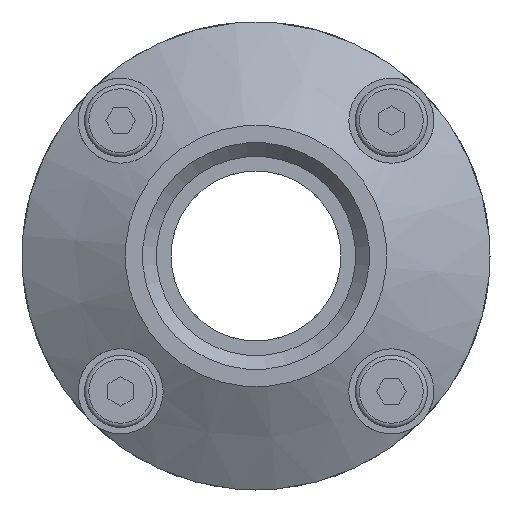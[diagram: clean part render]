
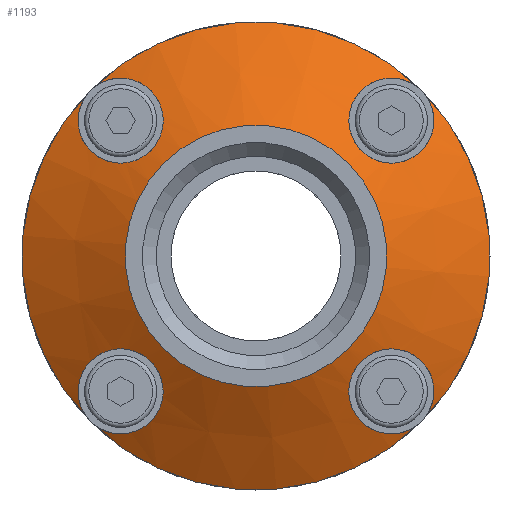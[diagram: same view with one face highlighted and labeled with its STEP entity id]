
A CAD part, front view. The second image highlights one B-rep face of the part: STEP entity #1193.
In plain terms, the highlighted conical face has half-angle 60 degrees and reference radius 27.5 mm.
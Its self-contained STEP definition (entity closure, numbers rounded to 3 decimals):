
#35=B_SPLINE_CURVE_WITH_KNOTS('',3,(#6051,#6052,#6053,#6054,#6055,#6056,
#6057,#6058,#6059,#6060,#6061,#6062,#6063,#6064,#6065,#6066,#6067,#6068),
 .UNSPECIFIED.,.T.,.F.,(2,2,2,2,2,2,2,2,2,2,2),(-0.125,0.,0.125,0.25,0.375,
0.5,0.625,0.75,0.875,1.,1.125),.UNSPECIFIED.);
#36=B_SPLINE_CURVE_WITH_KNOTS('',3,(#6069,#6070,#6071,#6072,#6073,#6074,
#6075,#6076,#6077,#6078,#6079,#6080,#6081,#6082,#6083,#6084,#6085,#6086),
 .UNSPECIFIED.,.T.,.F.,(2,2,2,2,2,2,2,2,2,2,2),(-0.125,0.,0.125,0.25,0.375,
0.5,0.625,0.75,0.875,1.,1.125),.UNSPECIFIED.);
#37=B_SPLINE_CURVE_WITH_KNOTS('',3,(#6087,#6088,#6089,#6090,#6091,#6092,
#6093,#6094,#6095,#6096,#6097,#6098,#6099,#6100,#6101,#6102,#6103,#6104),
 .UNSPECIFIED.,.T.,.F.,(2,2,2,2,2,2,2,2,2,2,2),(-0.125,0.,0.125,0.25,0.375,
0.5,0.625,0.75,0.875,1.,1.125),.UNSPECIFIED.);
#38=B_SPLINE_CURVE_WITH_KNOTS('',3,(#6105,#6106,#6107,#6108,#6109,#6110,
#6111,#6112,#6113,#6114,#6115,#6116,#6117,#6118,#6119,#6120,#6121,#6122),
 .UNSPECIFIED.,.T.,.F.,(2,2,2,2,2,2,2,2,2,2,2),(-0.125,0.,0.125,0.25,0.375,
0.5,0.625,0.75,0.875,1.,1.125),.UNSPECIFIED.);
#50=CONICAL_SURFACE('',#4158,27.5,60.);
#789=FACE_BOUND('',#1783,.T.);
#790=FACE_BOUND('',#1784,.T.);
#1193=ADVANCED_FACE('',(#789,#790),#50,.T.);
#1783=EDGE_LOOP('',(#2360));
#1784=EDGE_LOOP('',(#2361,#2362,#2363,#2364,#2365,#2366,#2367,#2368));
#2360=ORIENTED_EDGE('',*,*,#3388,.F.);
#2361=ORIENTED_EDGE('',*,*,#3386,.F.);
#2362=ORIENTED_EDGE('',*,*,#3410,.F.);
#2363=ORIENTED_EDGE('',*,*,#3385,.F.);
#2364=ORIENTED_EDGE('',*,*,#3411,.F.);
#2365=ORIENTED_EDGE('',*,*,#3384,.F.);
#2366=ORIENTED_EDGE('',*,*,#3412,.F.);
#2367=ORIENTED_EDGE('',*,*,#3383,.F.);
#2368=ORIENTED_EDGE('',*,*,#3413,.F.);
#3035=VERTEX_POINT('',#5979);
#3036=VERTEX_POINT('',#5980);
#3037=VERTEX_POINT('',#5982);
#3038=VERTEX_POINT('',#5984);
#3040=VERTEX_POINT('',#5990);
#3383=EDGE_CURVE('',#3035,#3036,#3832,.T.);
#3384=EDGE_CURVE('',#3036,#3037,#3833,.T.);
#3385=EDGE_CURVE('',#3037,#3038,#3834,.T.);
#3386=EDGE_CURVE('',#3038,#3035,#3835,.T.);
#3388=EDGE_CURVE('',#3040,#3040,#3837,.T.);
#3410=EDGE_CURVE('',#3038,#3038,#35,.T.);
#3411=EDGE_CURVE('',#3037,#3037,#36,.T.);
#3412=EDGE_CURVE('',#3036,#3036,#37,.T.);
#3413=EDGE_CURVE('',#3035,#3035,#38,.T.);
#3832=CIRCLE('',#4112,27.5);
#3833=CIRCLE('',#4113,27.5);
#3834=CIRCLE('',#4114,27.5);
#3835=CIRCLE('',#4115,27.5);
#3837=CIRCLE('',#4118,15.376);
#4112=AXIS2_PLACEMENT_3D('',#5978,#4767,#4768);
#4113=AXIS2_PLACEMENT_3D('',#5981,#4769,#4770);
#4114=AXIS2_PLACEMENT_3D('',#5983,#4771,#4772);
#4115=AXIS2_PLACEMENT_3D('',#5985,#4773,#4774);
#4118=AXIS2_PLACEMENT_3D('',#5989,#4779,#4780);
#4158=AXIS2_PLACEMENT_3D('',#6123,#4859,#4860);
#4767=DIRECTION('',(0.,1.,0.));
#4768=DIRECTION('',(0.707,0.,-0.707));
#4769=DIRECTION('',(0.,1.,0.));
#4770=DIRECTION('',(0.707,0.,-0.707));
#4771=DIRECTION('',(0.,1.,0.));
#4772=DIRECTION('',(0.707,0.,-0.707));
#4773=DIRECTION('',(0.,1.,0.));
#4774=DIRECTION('',(0.707,0.,-0.707));
#4779=DIRECTION('',(0.,-1.,0.));
#4780=DIRECTION('',(0.707,0.,-0.707));
#4859=DIRECTION('',(0.,1.,0.));
#4860=DIRECTION('',(-0.707,0.,0.707));
#5978=CARTESIAN_POINT('',(0.,-40.5,0.));
#5979=CARTESIAN_POINT('',(-19.445,-40.5,19.445));
#5980=CARTESIAN_POINT('',(19.445,-40.5,19.445));
#5981=CARTESIAN_POINT('',(0.,-40.5,0.));
#5982=CARTESIAN_POINT('',(19.445,-40.5,-19.445));
#5983=CARTESIAN_POINT('',(0.,-40.5,0.));
#5984=CARTESIAN_POINT('',(-19.445,-40.5,-19.445));
#5985=CARTESIAN_POINT('',(0.,-40.5,0.));
#5989=CARTESIAN_POINT('',(0.,-47.5,0.));
#5990=CARTESIAN_POINT('',(10.872,-47.5,-10.872));
#6051=CARTESIAN_POINT('',(-20.453,-40.5,-18.438));
#6052=CARTESIAN_POINT('',(-18.438,-40.5,-20.453));
#6053=CARTESIAN_POINT('',(-17.019,-40.798,-20.965));
#6054=CARTESIAN_POINT('',(-14.347,-41.78,-20.844));
#6055=CARTESIAN_POINT('',(-13.152,-42.433,-20.258));
#6056=CARTESIAN_POINT('',(-11.448,-43.827,-18.481));
#6057=CARTESIAN_POINT('',(-10.944,-44.558,-17.314));
#6058=CARTESIAN_POINT('',(-10.879,-45.798,-14.76));
#6059=CARTESIAN_POINT('',(-11.378,-46.273,-13.371));
#6060=CARTESIAN_POINT('',(-13.368,-46.274,-11.38));
#6061=CARTESIAN_POINT('',(-14.775,-45.791,-10.878));
#6062=CARTESIAN_POINT('',(-17.312,-44.558,-10.946));
#6063=CARTESIAN_POINT('',(-18.499,-43.814,-11.46));
#6064=CARTESIAN_POINT('',(-20.264,-42.427,-13.163));
#6065=CARTESIAN_POINT('',(-20.848,-41.768,-14.377));
#6066=CARTESIAN_POINT('',(-20.962,-40.802,-17.011));
#6067=CARTESIAN_POINT('',(-20.453,-40.5,-18.438));
#6068=CARTESIAN_POINT('',(-18.438,-40.5,-20.453));
#6069=CARTESIAN_POINT('',(18.451,-40.5,-20.439));
#6070=CARTESIAN_POINT('',(20.439,-40.5,-18.451));
#6071=CARTESIAN_POINT('',(20.963,-40.801,-17.014));
#6072=CARTESIAN_POINT('',(20.847,-41.771,-14.37));
#6073=CARTESIAN_POINT('',(20.257,-42.433,-13.153));
#6074=CARTESIAN_POINT('',(18.492,-43.818,-11.457));
#6075=CARTESIAN_POINT('',(17.301,-44.564,-10.945));
#6076=CARTESIAN_POINT('',(14.785,-45.787,-10.878));
#6077=CARTESIAN_POINT('',(13.39,-46.272,-11.362));
#6078=CARTESIAN_POINT('',(11.37,-46.275,-13.375));
#6079=CARTESIAN_POINT('',(10.878,-45.799,-14.759));
#6080=CARTESIAN_POINT('',(10.945,-44.554,-17.322));
#6081=CARTESIAN_POINT('',(11.458,-43.816,-18.498));
#6082=CARTESIAN_POINT('',(13.169,-42.422,-20.269));
#6083=CARTESIAN_POINT('',(14.369,-41.77,-20.85));
#6084=CARTESIAN_POINT('',(17.032,-40.795,-20.961));
#6085=CARTESIAN_POINT('',(18.451,-40.5,-20.439));
#6086=CARTESIAN_POINT('',(20.439,-40.5,-18.451));
#6087=CARTESIAN_POINT('',(20.44,-40.5,18.451));
#6088=CARTESIAN_POINT('',(18.451,-40.5,20.44));
#6089=CARTESIAN_POINT('',(17.015,-40.8,20.964));
#6090=CARTESIAN_POINT('',(14.361,-41.774,20.846));
#6091=CARTESIAN_POINT('',(13.147,-42.437,20.253));
#6092=CARTESIAN_POINT('',(11.453,-43.823,18.486));
#6093=CARTESIAN_POINT('',(10.942,-44.57,17.29));
#6094=CARTESIAN_POINT('',(10.881,-45.792,14.772));
#6095=CARTESIAN_POINT('',(11.37,-46.275,13.376));
#6096=CARTESIAN_POINT('',(13.389,-46.272,11.363));
#6097=CARTESIAN_POINT('',(14.796,-45.783,10.873));
#6098=CARTESIAN_POINT('',(17.33,-44.548,10.951));
#6099=CARTESIAN_POINT('',(18.509,-43.807,11.466));
#6100=CARTESIAN_POINT('',(20.27,-42.42,13.173));
#6101=CARTESIAN_POINT('',(20.851,-41.767,14.375));
#6102=CARTESIAN_POINT('',(20.961,-40.796,17.03));
#6103=CARTESIAN_POINT('',(20.44,-40.5,18.451));
#6104=CARTESIAN_POINT('',(18.451,-40.5,20.44));
#6105=CARTESIAN_POINT('',(-18.448,-40.5,20.443));
#6106=CARTESIAN_POINT('',(-20.443,-40.5,18.448));
#6107=CARTESIAN_POINT('',(-20.964,-40.802,17.008));
#6108=CARTESIAN_POINT('',(-20.846,-41.773,14.364));
#6109=CARTESIAN_POINT('',(-20.255,-42.436,13.147));
#6110=CARTESIAN_POINT('',(-18.479,-43.828,11.448));
#6111=CARTESIAN_POINT('',(-17.295,-44.569,10.94));
#6112=CARTESIAN_POINT('',(-14.749,-45.802,10.883));
#6113=CARTESIAN_POINT('',(-13.355,-46.276,11.388));
#6114=CARTESIAN_POINT('',(-11.374,-46.271,13.381));
#6115=CARTESIAN_POINT('',(-10.875,-45.787,14.786));
#6116=CARTESIAN_POINT('',(-10.949,-44.552,17.323));
#6117=CARTESIAN_POINT('',(-11.468,-43.806,18.51));
#6118=CARTESIAN_POINT('',(-13.166,-42.425,20.265));
#6119=CARTESIAN_POINT('',(-14.387,-41.763,20.851));
#6120=CARTESIAN_POINT('',(-17.018,-40.801,20.96));
#6121=CARTESIAN_POINT('',(-18.448,-40.5,20.443));
#6122=CARTESIAN_POINT('',(-20.443,-40.5,18.448));
#6123=CARTESIAN_POINT('',(0.,-40.5,0.));
